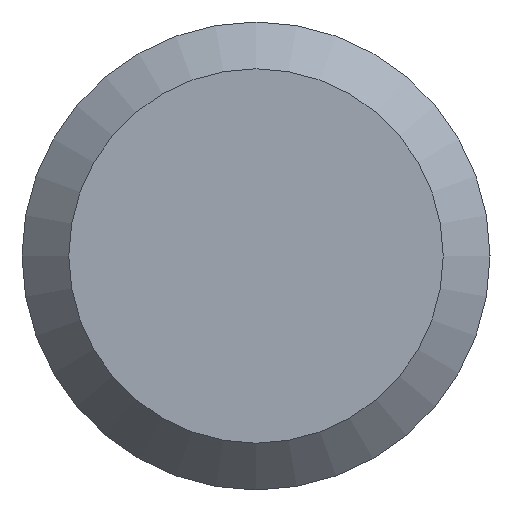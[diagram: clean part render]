
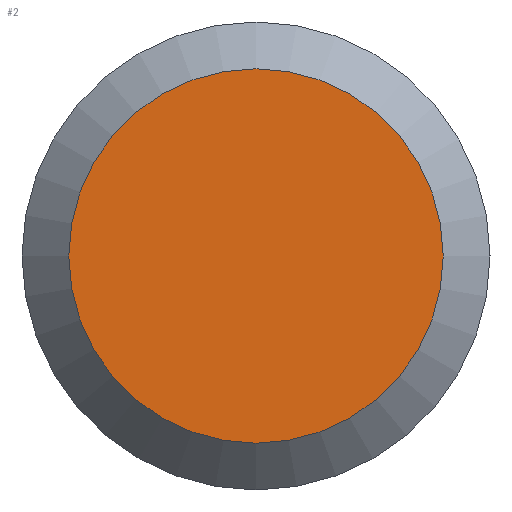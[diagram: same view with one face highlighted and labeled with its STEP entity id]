
A CAD part, left-side view. The second image highlights one B-rep face of the part: STEP entity #2.
In plain terms, the highlighted planar face has unit normal (-1, 0, 0).
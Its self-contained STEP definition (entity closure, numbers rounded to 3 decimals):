
#1 = CIRCLE ( 'NONE', #195, 4.8 ) ;
#2 = ADVANCED_FACE ( 'NONE', ( #39 ), #138, .T. ) ;
#39 = FACE_OUTER_BOUND ( 'NONE', #45, .T. ) ;
#45 = EDGE_LOOP ( 'NONE', ( #211 ) ) ;
#53 = DIRECTION ( 'NONE',  ( 0., 1., 0. ) ) ;
#66 = CARTESIAN_POINT ( 'NONE',  ( 0., 0., 0. ) ) ;
#72 = AXIS2_PLACEMENT_3D ( 'NONE', #158, #118, #180 ) ;
#118 = DIRECTION ( 'NONE',  ( -1., 0., 0. ) ) ;
#125 = CARTESIAN_POINT ( 'NONE',  ( 0., 4.8, 0. ) ) ;
#138 = PLANE ( 'NONE',  #72 ) ;
#151 = DIRECTION ( 'NONE',  ( 1., 0., 0. ) ) ;
#158 = CARTESIAN_POINT ( 'NONE',  ( 0., 0., 0. ) ) ;
#180 = DIRECTION ( 'NONE',  ( 0., -1., 0. ) ) ;
#186 = EDGE_CURVE ( 'NONE', #200, #200, #1, .T. ) ;
#195 = AXIS2_PLACEMENT_3D ( 'NONE', #66, #151, #53 ) ;
#200 = VERTEX_POINT ( 'NONE', #125 ) ;
#211 = ORIENTED_EDGE ( 'NONE', *, *, #186, .F. ) ;
